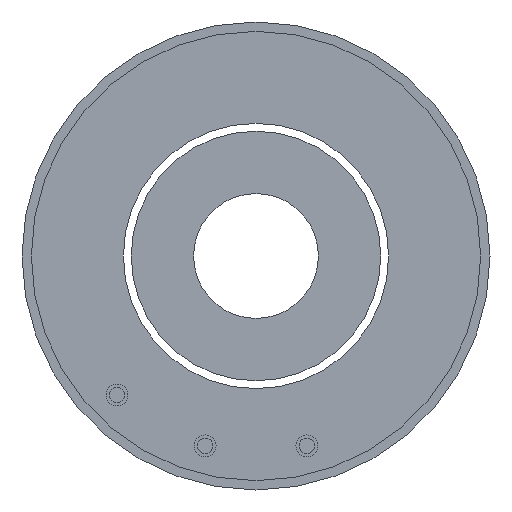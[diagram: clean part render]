
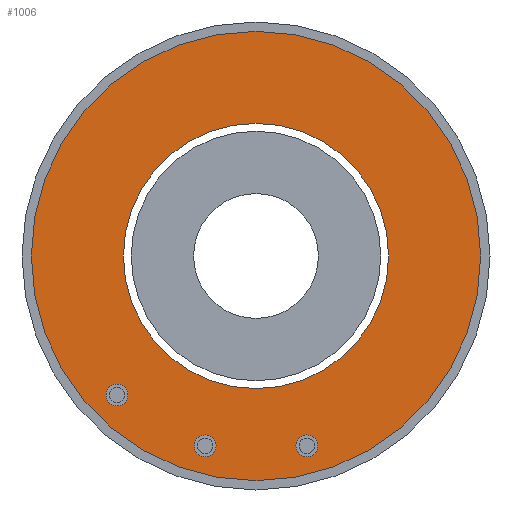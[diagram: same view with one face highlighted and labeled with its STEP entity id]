
A CAD part, left-side view. The second image highlights one B-rep face of the part: STEP entity #1006.
In plain terms, the highlighted planar face has unit normal (-1, 0, 0).
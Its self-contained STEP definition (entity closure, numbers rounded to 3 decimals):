
#6 = DIRECTION ( 'NONE',  ( 0., 0., -1. ) ) ;
#12 = EDGE_LOOP ( 'NONE', ( #359, #346 ) ) ;
#15 = EDGE_LOOP ( 'NONE', ( #845, #511 ) ) ;
#28 = CARTESIAN_POINT ( 'NONE',  ( 0., 4.455, -4.105 ) ) ;
#30 = EDGE_CURVE ( 'NONE', #755, #681, #476, .T. ) ;
#34 = VERTEX_POINT ( 'NONE', #616 ) ;
#48 = VERTEX_POINT ( 'NONE', #770 ) ;
#64 = EDGE_CURVE ( 'NONE', #34, #950, #307, .T. ) ;
#69 = EDGE_CURVE ( 'NONE', #48, #855, #871, .T. ) ;
#73 = FACE_BOUND ( 'NONE', #502, .T. ) ;
#78 = DIRECTION ( 'NONE',  ( 1., 0., 0. ) ) ;
#88 = AXIS2_PLACEMENT_3D ( 'NONE', #133, #893, #439 ) ;
#106 = VERTEX_POINT ( 'NONE', #780 ) ;
#109 = AXIS2_PLACEMENT_3D ( 'NONE', #548, #607, #147 ) ;
#115 = CARTESIAN_POINT ( 'NONE',  ( 0., -1.631, -6.085 ) ) ;
#116 = DIRECTION ( 'NONE',  ( 0., 0., -1. ) ) ;
#117 = DIRECTION ( 'NONE',  ( -1., 0., 0. ) ) ;
#123 = CIRCLE ( 'NONE', #687, 4.25 ) ;
#126 = VERTEX_POINT ( 'NONE', #803 ) ;
#133 = CARTESIAN_POINT ( 'NONE',  ( 0., 1.631, -6.085 ) ) ;
#147 = DIRECTION ( 'NONE',  ( 0., 0., -1. ) ) ;
#156 = FACE_BOUND ( 'NONE', #12, .T. ) ;
#181 = DIRECTION ( 'NONE',  ( -1., 0., 0. ) ) ;
#187 = CARTESIAN_POINT ( 'NONE',  ( 0., 0., 0. ) ) ;
#200 = DIRECTION ( 'NONE',  ( -1., 0., 0. ) ) ;
#218 = EDGE_CURVE ( 'NONE', #681, #755, #836, .T. ) ;
#223 = CARTESIAN_POINT ( 'NONE',  ( 0., 0., 4.25 ) ) ;
#227 = EDGE_CURVE ( 'NONE', #728, #106, #360, .T. ) ;
#256 = EDGE_CURVE ( 'NONE', #126, #921, #919, .T. ) ;
#282 = ORIENTED_EDGE ( 'NONE', *, *, #30, .F. ) ;
#286 = EDGE_CURVE ( 'NONE', #950, #34, #384, .T. ) ;
#307 = CIRCLE ( 'NONE', #771, 7.2 ) ;
#309 = AXIS2_PLACEMENT_3D ( 'NONE', #898, #433, #116 ) ;
#323 = AXIS2_PLACEMENT_3D ( 'NONE', #946, #78, #6 ) ;
#333 = ORIENTED_EDGE ( 'NONE', *, *, #256, .F. ) ;
#345 = DIRECTION ( 'NONE',  ( 0., 0., 1. ) ) ;
#346 = ORIENTED_EDGE ( 'NONE', *, *, #227, .F. ) ;
#359 = ORIENTED_EDGE ( 'NONE', *, *, #776, .F. ) ;
#360 = CIRCLE ( 'NONE', #88, 0.35 ) ;
#384 = CIRCLE ( 'NONE', #565, 7.2 ) ;
#424 = CARTESIAN_POINT ( 'NONE',  ( 0., 4.455, -4.805 ) ) ;
#428 = DIRECTION ( 'NONE',  ( -1., 0., 0. ) ) ;
#433 = DIRECTION ( 'NONE',  ( -1., 0., 0. ) ) ;
#439 = DIRECTION ( 'NONE',  ( 0., 0., -1. ) ) ;
#455 = AXIS2_PLACEMENT_3D ( 'NONE', #115, #200, #503 ) ;
#476 = CIRCLE ( 'NONE', #109, 0.35 ) ;
#492 = EDGE_CURVE ( 'NONE', #921, #126, #972, .T. ) ;
#502 = EDGE_LOOP ( 'NONE', ( #746, #1009 ) ) ;
#503 = DIRECTION ( 'NONE',  ( 0., 0., -1. ) ) ;
#511 = ORIENTED_EDGE ( 'NONE', *, *, #286, .T. ) ;
#541 = FACE_BOUND ( 'NONE', #995, .T. ) ;
#548 = CARTESIAN_POINT ( 'NONE',  ( 0., 4.455, -4.455 ) ) ;
#565 = AXIS2_PLACEMENT_3D ( 'NONE', #980, #428, #737 ) ;
#607 = DIRECTION ( 'NONE',  ( -1., 0., 0. ) ) ;
#615 = CARTESIAN_POINT ( 'NONE',  ( 0., 0., 0. ) ) ;
#616 = CARTESIAN_POINT ( 'NONE',  ( 0., 0., 7.2 ) ) ;
#617 = DIRECTION ( 'NONE',  ( 0., 0., 1. ) ) ;
#681 = VERTEX_POINT ( 'NONE', #28 ) ;
#683 = CARTESIAN_POINT ( 'NONE',  ( 0., -1.631, -5.735 ) ) ;
#687 = AXIS2_PLACEMENT_3D ( 'NONE', #615, #924, #617 ) ;
#711 = DIRECTION ( 'NONE',  ( -1., 0., 0. ) ) ;
#716 = CARTESIAN_POINT ( 'NONE',  ( 0., 0., 0. ) ) ;
#728 = VERTEX_POINT ( 'NONE', #814 ) ;
#737 = DIRECTION ( 'NONE',  ( 0., 0., 1. ) ) ;
#746 = ORIENTED_EDGE ( 'NONE', *, *, #966, .F. ) ;
#747 = DIRECTION ( 'NONE',  ( 0., 0., -1. ) ) ;
#749 = DIRECTION ( 'NONE',  ( -1., 0., 0. ) ) ;
#755 = VERTEX_POINT ( 'NONE', #424 ) ;
#770 = CARTESIAN_POINT ( 'NONE',  ( 0., 0., -4.25 ) ) ;
#771 = AXIS2_PLACEMENT_3D ( 'NONE', #716, #711, #345 ) ;
#776 = EDGE_CURVE ( 'NONE', #106, #728, #885, .T. ) ;
#779 = FACE_OUTER_BOUND ( 'NONE', #15, .T. ) ;
#780 = CARTESIAN_POINT ( 'NONE',  ( 0., 1.631, -6.435 ) ) ;
#800 = ORIENTED_EDGE ( 'NONE', *, *, #492, .F. ) ;
#803 = CARTESIAN_POINT ( 'NONE',  ( 0., -1.631, -6.435 ) ) ;
#807 = EDGE_LOOP ( 'NONE', ( #282, #942 ) ) ;
#814 = CARTESIAN_POINT ( 'NONE',  ( 0., 1.631, -5.735 ) ) ;
#817 = DIRECTION ( 'NONE',  ( 0., 0., -1. ) ) ;
#823 = AXIS2_PLACEMENT_3D ( 'NONE', #838, #749, #817 ) ;
#836 = CIRCLE ( 'NONE', #823, 0.35 ) ;
#838 = CARTESIAN_POINT ( 'NONE',  ( 0., 4.455, -4.455 ) ) ;
#840 = CARTESIAN_POINT ( 'NONE',  ( 0., 0., -7.2 ) ) ;
#845 = ORIENTED_EDGE ( 'NONE', *, *, #64, .T. ) ;
#855 = VERTEX_POINT ( 'NONE', #223 ) ;
#871 = CIRCLE ( 'NONE', #907, 4.25 ) ;
#885 = CIRCLE ( 'NONE', #974, 0.35 ) ;
#893 = DIRECTION ( 'NONE',  ( -1., 0., 0. ) ) ;
#898 = CARTESIAN_POINT ( 'NONE',  ( 0., -1.631, -6.085 ) ) ;
#907 = AXIS2_PLACEMENT_3D ( 'NONE', #187, #181, #941 ) ;
#919 = CIRCLE ( 'NONE', #309, 0.35 ) ;
#921 = VERTEX_POINT ( 'NONE', #683 ) ;
#924 = DIRECTION ( 'NONE',  ( -1., 0., 0. ) ) ;
#941 = DIRECTION ( 'NONE',  ( 0., 0., 1. ) ) ;
#942 = ORIENTED_EDGE ( 'NONE', *, *, #218, .F. ) ;
#946 = CARTESIAN_POINT ( 'NONE',  ( 0., 4.25, 0. ) ) ;
#950 = VERTEX_POINT ( 'NONE', #840 ) ;
#954 = FACE_BOUND ( 'NONE', #807, .T. ) ;
#966 = EDGE_CURVE ( 'NONE', #855, #48, #123, .T. ) ;
#972 = CIRCLE ( 'NONE', #455, 0.35 ) ;
#974 = AXIS2_PLACEMENT_3D ( 'NONE', #977, #117, #747 ) ;
#977 = CARTESIAN_POINT ( 'NONE',  ( 0., 1.631, -6.085 ) ) ;
#980 = CARTESIAN_POINT ( 'NONE',  ( 0., 0., 0. ) ) ;
#995 = EDGE_LOOP ( 'NONE', ( #333, #800 ) ) ;
#1006 = ADVANCED_FACE ( 'NONE', ( #541, #156, #954, #73, #779 ), #1015, .F. ) ;
#1009 = ORIENTED_EDGE ( 'NONE', *, *, #69, .F. ) ;
#1015 = PLANE ( 'NONE',  #323 ) ;
